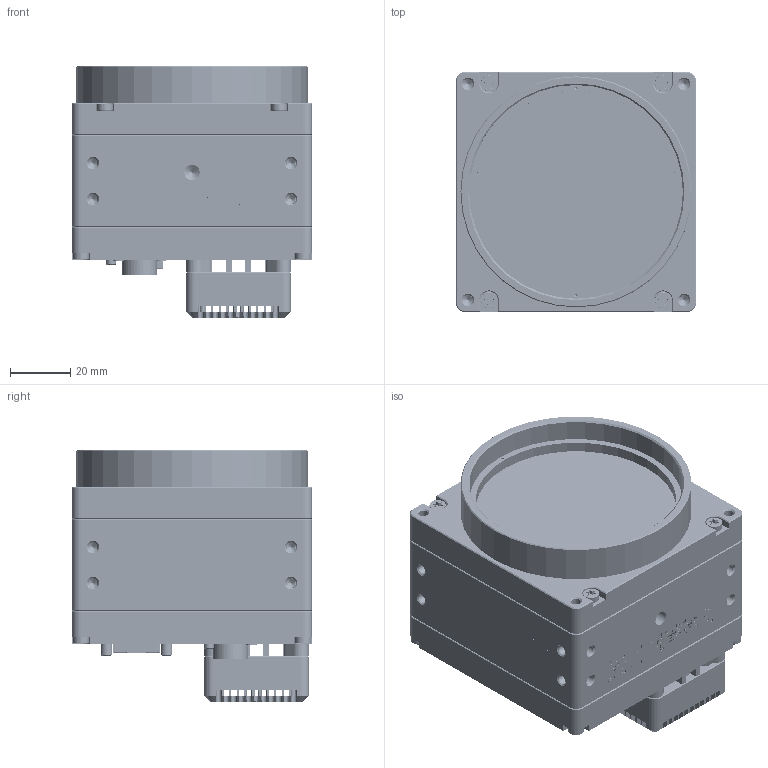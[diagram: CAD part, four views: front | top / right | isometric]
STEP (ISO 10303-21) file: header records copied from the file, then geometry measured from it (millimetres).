
FILE_DESCRIPTION (( 'STEP AP214' ), '1' );
FILE_NAME ('F004085-01001 SHR411CXGE.STEP', '2021-02-23T11:31:54', ( '' ), ( '' ), 'SwSTEP 2.0', 'SolidWorks 2020', '' );
FILE_SCHEMA (( 'AUTOMOTIVE_DESIGN' ));
Length unit declared in the file: millimetre
Products named in the file (37): E001488-00000 Kühlpad 10x12x1,5mm; HRS12 Mutter; E001480-00000 Kühlpad 18 x 18 x1,5mm; E003308-01001 Sensor IMX411AQR-C CMOS MS; N000031-00000 SCHRAUBE M2x4 Torx ISO14583_M2x04; E002846-03001 Mittelteil SHR411 Fertigteil Lackierstufe - lackiert und Tampondruck_Step; M2x8; HRS10A-12R-12PB(71) Body; IMX411AQR MS Glass; GE-Honda; E002400-03001 Montage Flansch HRS10A; HRS10A-12R-12PB(71); E002844-02001 Frontplatte SHR411 Lackierstufe Fertigteil - lackiert_Standard 19,55mm mit Schutzglas; HRS10A Pin; Baugruppe Sensor-Bügel; HRS10A-12R-12PB(71) mit Mutter; N000055-00000 Schraube M3x16 Torx ISO14580; E004036-01001 Deckglas SHR d_71; F004085-01001 SHR411CXGE; E002734-02001 Bügel Sensor IMX411; E002867-01001 Lüfterkäfig SHR leise Fertigteil -  lackiert; E004054-01001 Distanzring SHR411 f黵 Deckglas d=71,0; N000081-00000 Zylinderstift ISO 2338 2m6 x 8 Edelstahl; E002762-01001 Sensordichtung SHR411; GE-Schraube; IMX411AQR MS. Base; E001471-00000 Kühlpad 27x27x3,0mm; E002082 Lichtleiter Mentor 1282.2000; E002478-01002 Haltering SHR47051 f黵 Deckglas d_71; E002740-01001 Lüfter HR2 - Fan axial 30x30x10mm 5VDC Tacho; E001478-00000 Kühlpad 27x27x2,0mm; N000064-00000 Abstandsbolzen M2x10_Abstandshalter M2x8; E001484-00000 Kühlpad 35 x 5 x 2 mm; E002875-02001 Rückplatte SHR411xXGE Lackierstufe Fertigteil -  lackiert und Tampondruck_CXP2; N000096-00000 Senkkopfschraube ISO 14581 A2 M2x16; IMX411AQR MS; E002258-00000 M2x4 FK
Assembly tree (76 placements, depth 5):
  F004085-01001 SHR411CXGE
    E002844-02001 Frontplatte SHR411 Lackierstufe Fertigteil - lackiert_Standard 19,55mm mit Schutzglas
    E002762-01001 Sensordichtung SHR411
    E002846-03001 Mittelteil SHR411 Fertigteil Lackierstufe - lackiert und Tampondruck_Step
    E002875-02001 Rückplatte SHR411xXGE Lackierstufe Fertigteil -  lackiert und Tampondruck_CXP2
    E004036-01001 Deckglas SHR d_71
    E004054-01001 Distanzring SHR411 f黵 Deckglas d=71,0
    E002478-01002 Haltering SHR47051 f黵 Deckglas d_71
    Baugruppe Sensor-Bügel
      E002734-02001 Bügel Sensor IMX411  x2
      E003308-01001 Sensor IMX411AQR-C CMOS MS
        IMX411AQR MS
          IMX411AQR MS. Base
          IMX411AQR MS Glass
    E001480-00000 Kühlpad 18 x 18 x1,5mm
    E001484-00000 Kühlpad 35 x 5 x 2 mm  x2
    E001478-00000 Kühlpad 27x27x2,0mm
    E001471-00000 Kühlpad 27x27x3,0mm
    E001488-00000 Kühlpad 10x12x1,5mm
    E002740-01001 Lüfter HR2 - Fan axial 30x30x10mm 5VDC Tacho
    E002867-01001 Lüfterkäfig SHR leise Fertigteil -  lackiert
    E002258-00000 M2x4 FK  x6
    E002082 Lichtleiter Mentor 1282.2000
    N000064-00000 Abstandsbolzen M2x10_Abstandshalter M2x8  x4
    N000055-00000 Schraube M3x16 Torx ISO14580  x8
    N000081-00000 Zylinderstift ISO 2338 2m6 x 8 Edelstahl  x4
    N000096-00000 Senkkopfschraube ISO 14581 A2 M2x16  x3
    N000031-00000 SCHRAUBE M2x4 Torx ISO14583_M2x04  x4
    E002400-03001 Montage Flansch HRS10A
    M2x8  x4
    HRS10A-12R-12PB(71) mit Mutter
      HRS10A-12R-12PB(71)
        HRS10A Pin  x12
        HRS10A-12R-12PB(71) Body
      HRS12 Mutter
    GE-Schraube  x2
    GE-Honda
Bounding box: 80 x 80 x 83.65 mm (x, y, z)
Volume: 170085.6 mm3; surface area: 140204.6 mm2
Topology: 83 solids, 83 shells, 11673 faces, 30013 edges, 19594 vertices
Faces by surface type: plane 5612, bspline 3678, cylinder 1852, cone 403, torus 80, sphere 48
Full cylindrical faces by diameter (mm): 0.8 x36, 1 x598, 1.1 x2, 1.2 x12, 1.5 x4, 1.6 x17, 1.674 x52, 1.8 x7, 1.98 x2, 2 x33, 2.05 x2, 2.1 x10, 2.2 x7, 2.5 x9, 2.8 x1, 2.85 x1, 2.96 x8, 3 x3, 3.2 x8, 3.3 x20, 3.4 x4, 3.5 x6, 3.8 x4, 4 x10, 4.2 x4, 5.105 x1, 5.4 x8, 9 x1, 10.5 x1, 11 x1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
Entity records: 443637 total; most frequent: CARTESIAN_POINT 128650, ORIENTED_EDGE 52930, DIRECTION 35668, EDGE_CURVE 26465, VERTEX_POINT 18011, LINE 15854, VECTOR 15854, EDGE_LOOP 12846
